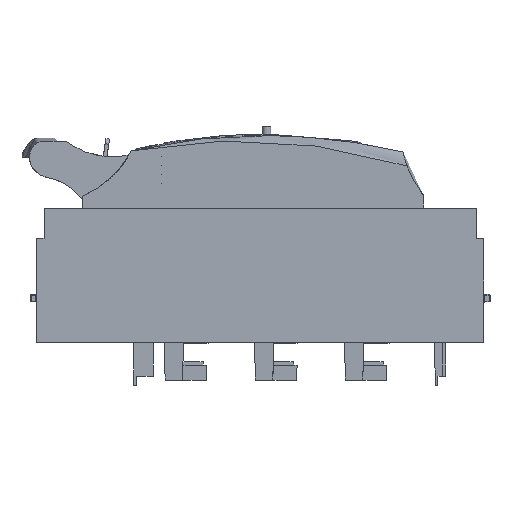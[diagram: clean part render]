
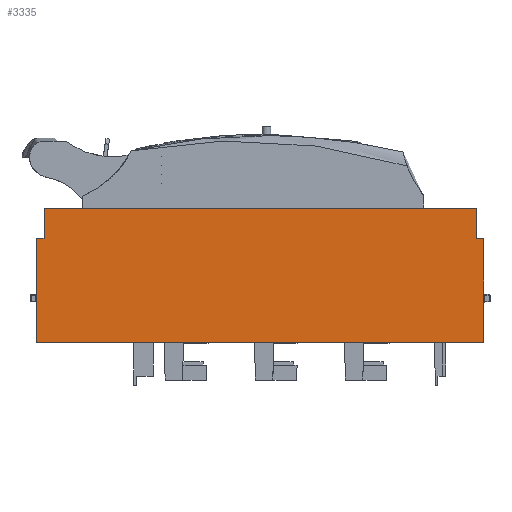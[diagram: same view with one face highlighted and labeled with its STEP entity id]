
A CAD part, front view. The second image highlights one B-rep face of the part: STEP entity #3335.
In plain terms, the highlighted planar face has unit normal (0, -1, 0).
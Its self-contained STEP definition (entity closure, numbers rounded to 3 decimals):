
#3335=ADVANCED_FACE('',(#4992),#4615,.F.);
#4615=PLANE('',#26599);
#4992=FACE_OUTER_BOUND('',#6279,.T.);
#6279=EDGE_LOOP('',(#8394,#8395,#8396,#8397,#8398,#8399,#8400,#8401));
#8394=ORIENTED_EDGE('',*,*,#17360,.T.);
#8395=ORIENTED_EDGE('',*,*,#17322,.F.);
#8396=ORIENTED_EDGE('',*,*,#18021,.F.);
#8397=ORIENTED_EDGE('',*,*,#18022,.T.);
#8398=ORIENTED_EDGE('',*,*,#18012,.F.);
#8399=ORIENTED_EDGE('',*,*,#18023,.T.);
#8400=ORIENTED_EDGE('',*,*,#18024,.F.);
#8401=ORIENTED_EDGE('',*,*,#18025,.F.);
#14888=VERTEX_POINT('',#34413);
#14912=VERTEX_POINT('',#34463);
#14947=VERTEX_POINT('',#34539);
#15579=VERTEX_POINT('',#37814);
#15580=VERTEX_POINT('',#37815);
#15586=VERTEX_POINT('',#37832);
#15587=VERTEX_POINT('',#37835);
#15588=VERTEX_POINT('',#37837);
#17322=EDGE_CURVE('',#14912,#14888,#20947,.T.);
#17360=EDGE_CURVE('',#14947,#14888,#20973,.T.);
#18012=EDGE_CURVE('',#15579,#15580,#21132,.T.);
#18021=EDGE_CURVE('',#15586,#14912,#21141,.T.);
#18022=EDGE_CURVE('',#15586,#15580,#21142,.T.);
#18023=EDGE_CURVE('',#15579,#15587,#21143,.T.);
#18024=EDGE_CURVE('',#15588,#15587,#21144,.T.);
#18025=EDGE_CURVE('',#14947,#15588,#21145,.T.);
#20947=LINE('',#34464,#23457);
#20973=LINE('',#34538,#23483);
#21132=LINE('',#37813,#23647);
#21141=LINE('',#37831,#23656);
#21142=LINE('',#37833,#23657);
#21143=LINE('',#37834,#23658);
#21144=LINE('',#37836,#23659);
#21145=LINE('',#37838,#23660);
#23457=VECTOR('',#28166,1.);
#23483=VECTOR('',#28220,1.);
#23647=VECTOR('',#28464,1.);
#23656=VECTOR('',#28477,1.);
#23657=VECTOR('',#28478,1.);
#23658=VECTOR('',#28479,1.);
#23659=VECTOR('',#28480,1.);
#23660=VECTOR('',#28481,1.);
#26599=AXIS2_PLACEMENT_3D('',#37839,#28482,#28483);
#28166=DIRECTION('',(0.,0.,-1.));
#28220=DIRECTION('',(1.,0.,0.));
#28464=DIRECTION('',(1.,0.,0.));
#28477=DIRECTION('',(0.999,0.,-0.052));
#28478=DIRECTION('',(0.,0.,1.));
#28479=DIRECTION('',(0.,0.,-1.));
#28480=DIRECTION('',(0.999,0.,0.052));
#28481=DIRECTION('',(0.,0.,1.));
#28482=DIRECTION('',(0.,1.,0.));
#28483=DIRECTION('',(0.,0.,1.));
#34413=CARTESIAN_POINT('',(197.5,-98.5,24.1));
#34463=CARTESIAN_POINT('',(197.5,-98.5,93.238));
#34464=CARTESIAN_POINT('',(197.5,-98.5,34.));
#34538=CARTESIAN_POINT('',(-67.,-98.5,24.1));
#34539=CARTESIAN_POINT('',(-100.5,-98.5,24.1));
#37813=CARTESIAN_POINT('',(153.,-98.5,113.5));
#37814=CARTESIAN_POINT('',(-95.5,-98.5,113.5));
#37815=CARTESIAN_POINT('',(192.5,-98.5,113.5));
#37831=CARTESIAN_POINT('',(192.5,-98.5,93.5));
#37832=CARTESIAN_POINT('',(192.5,-98.5,93.5));
#37833=CARTESIAN_POINT('',(192.5,-98.5,106.5));
#37834=CARTESIAN_POINT('',(-95.5,-98.5,106.5));
#37835=CARTESIAN_POINT('',(-95.5,-98.5,93.5));
#37836=CARTESIAN_POINT('',(-95.5,-98.5,93.5));
#37837=CARTESIAN_POINT('',(-100.5,-98.5,93.238));
#37838=CARTESIAN_POINT('',(-100.5,-98.5,34.));
#37839=CARTESIAN_POINT('',(-67.,-98.5,34.));
